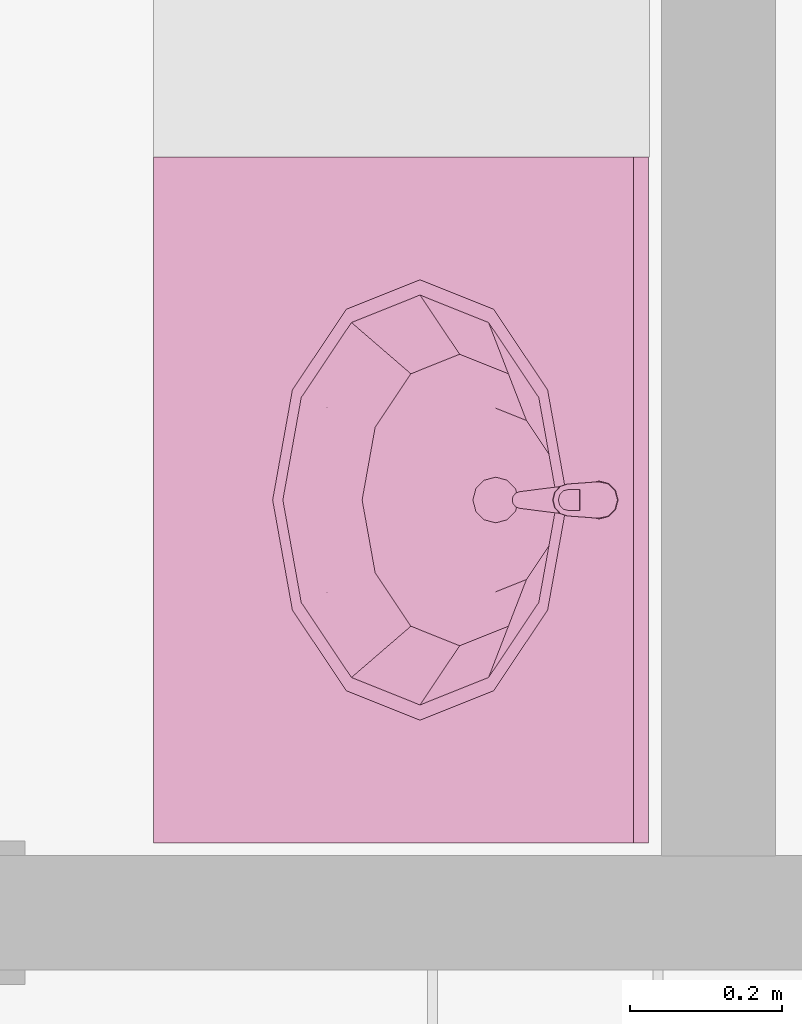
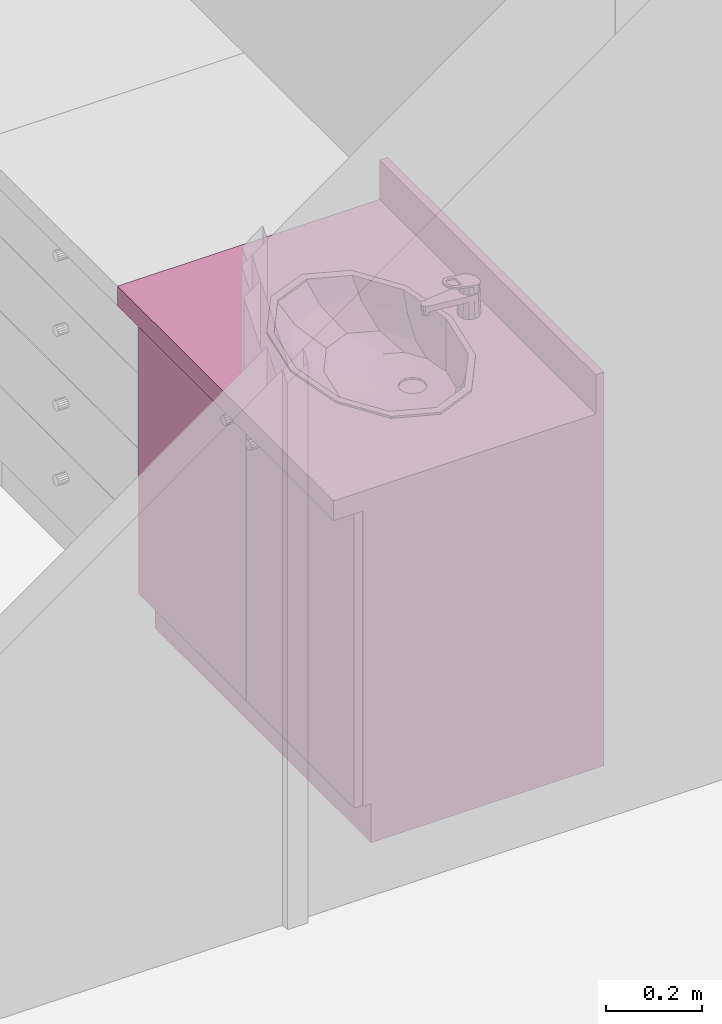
# One storey, part 97 of 127: 1 furnishing.
"""IFC2X3 building model written with IfcOpenShell, lengths in millimetres."""

from ifc_helpers import new_model, entity, si_unit, converted_unit, derived_unit, money_unit, direction, frame, origin_with_axes, place, context, subcontext, project, spatial, open_shell, faceted_brep, surface_model, source, transform, mapped, type_object, element, save


model = new_model("IFC2X3")

# Units and contexts
model_context = context("Model", 3, precision=1e-05, world=origin_with_axes(), true_north=direction((0.0, 1.0)))
body_context = subcontext(model_context, "Body", "Model", "MODEL_VIEW")
ifc_project = project(units=[si_unit("LENGTHUNIT", "METRE", prefix="MILLI"), si_unit("AREAUNIT", "SQUARE_METRE"), si_unit("VOLUMEUNIT", "CUBIC_METRE"), converted_unit("PLANEANGLEUNIT", "DEGREE", entity("IfcPlaneAngleMeasure", 0.0174532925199), si_unit("PLANEANGLEUNIT", "RADIAN"), dimensions=[0, 0, 0, 0, 0, 0, 0]), si_unit("SOLIDANGLEUNIT", "STERADIAN"), money_unit("EUR"), converted_unit("TIMEUNIT", "Year", entity("IfcTimeMeasure", 31556926.0), si_unit("TIMEUNIT", "SECOND"), dimensions=[0, 0, 1, 0, 0, 0, 0]), si_unit("MASSUNIT", "GRAM", prefix="KILO"), si_unit("THERMODYNAMICTEMPERATUREUNIT", "DEGREE_CELSIUS"), si_unit("LUMINOUSINTENSITYUNIT", "LUMEN"), si_unit("ENERGYUNIT", "JOULE", prefix="MEGA"), derived_unit("THERMALCONDUCTANCEUNIT", [(si_unit("POWERUNIT", "WATT"), 1), (si_unit("LENGTHUNIT", "METRE"), -1), (si_unit("THERMODYNAMICTEMPERATUREUNIT", "KELVIN"), -1)]), derived_unit("SPECIFICHEATCAPACITYUNIT", [(si_unit("ENERGYUNIT", "JOULE"), 1), (si_unit("MASSUNIT", "GRAM", prefix="KILO"), -1), (si_unit("THERMODYNAMICTEMPERATUREUNIT", "KELVIN"), -1)]), derived_unit("MASSDENSITYUNIT", [(si_unit("MASSUNIT", "GRAM", prefix="KILO"), 1), (si_unit("VOLUMEUNIT", "CUBIC_METRE"), -1)])], contexts=[model_context])

# Site, building, storey
site_placement = place(None, origin_with_axes())
site = spatial("IfcSite", under=ifc_project, at=site_placement, Name="Site", CompositionType="ELEMENT")
building_placement = place(site_placement, origin_with_axes())
building = spatial("IfcBuilding", under=site, at=building_placement, Name="Building", CompositionType="ELEMENT")
storey_placement = place(building_placement, origin_with_axes())
storey = spatial("IfcBuildingStorey", under=building, at=storey_placement, Name="1 KORRUS", CompositionType="ELEMENT", Elevation=0.0)

# Furnishing
furnishing_element_type = type_object("IfcFurnishingElementType", Name="Model Element 23")
shared_shape = source(origin_with_axes(), body_context, "Body", "SurfaceModel", [
    faceted_brep([(0.0, 90.0, 0.0), (900.0, 90.0, 0.0), (900.0, 90.0, 100.0), (0.0, 90.0, 100.0), (0.0, 650.0, 0.0), (900.0, 650.0, 0.0), (900.0, 650.0, 100.0), (0.0, 650.0, 100.0)], [[[0, 1, 2, 3]], [[0, 4, 5, 1]], [[1, 5, 6, 2]], [[3, 2, 6, 7]], [[4, 0, 3, 7]], [[5, 4, 7, 6]]]),
    faceted_brep([(0.0, 70.0, 100.0), (20.0, 70.0, 100.0), (20.0, 70.0, 120.0), (0.0, 70.0, 120.0), (0.0, 650.0, 100.0), (20.0, 650.0, 100.0), (880.0, 650.0, 100.0), (900.0, 650.0, 100.0), (900.0, 70.0, 100.0), (880.0, 70.0, 100.0), (880.0, 70.0, 120.0), (900.0, 70.0, 120.0), (900.0, 650.0, 120.0), (880.0, 650.0, 120.0), (20.0, 650.0, 120.0), (0.0, 650.0, 120.0)], [[[0, 1, 2, 3]], [[0, 4, 5, 6, 7, 8, 9, 1]], [[1, 9, 10, 2]], [[3, 2, 10, 11, 12, 13, 14, 15]], [[4, 0, 3, 15]], [[5, 4, 15, 14]], [[6, 5, 14, 13]], [[7, 6, 13, 12]], [[8, 7, 12, 11]], [[9, 8, 11, 10]]]),
    faceted_brep([(0.0, 70.0, 120.0), (20.0, 70.0, 120.0), (20.0, 70.0, 850.0), (0.0, 70.0, 850.0), (0.0, 650.0, 120.0), (900.0, 650.0, 120.0), (900.0, 70.0, 120.0), (880.0, 70.0, 120.0), (880.0, 630.0, 120.0), (20.0, 630.0, 120.0), (20.0, 630.0, 850.0), (880.0, 630.0, 850.0), (880.0, 70.0, 850.0), (900.0, 70.0, 850.0), (900.0, 650.0, 850.0), (0.0, 650.0, 850.0)], [[[0, 1, 2, 3]], [[0, 4, 5, 6, 7, 8, 9, 1]], [[1, 9, 10, 2]], [[3, 2, 10, 11, 12, 13, 14, 15]], [[4, 0, 3, 15]], [[5, 4, 15, 14]], [[6, 5, 14, 13]], [[7, 6, 13, 12]], [[8, 7, 12, 11]], [[9, 8, 11, 10]]]),
    faceted_brep([(880.0, 70.0, 323.333333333), (880.0, 630.0, 323.333333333), (880.0, 630.0, 343.333333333), (880.0, 70.0, 343.333333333), (20.0, 70.0, 323.333333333), (20.0, 630.0, 323.333333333), (20.0, 630.0, 343.333333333), (20.0, 70.0, 343.333333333)], [[[0, 1, 2, 3]], [[0, 4, 5, 1]], [[1, 5, 6, 2]], [[3, 2, 6, 7]], [[4, 0, 3, 7]], [[5, 4, 7, 6]]]),
    faceted_brep([(880.0, 70.0, 566.666666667), (880.0, 630.0, 566.666666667), (880.0, 630.0, 586.666666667), (880.0, 70.0, 586.666666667), (20.0, 70.0, 566.666666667), (20.0, 630.0, 566.666666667), (20.0, 630.0, 586.666666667), (20.0, 70.0, 586.666666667)], [[[0, 1, 2, 3]], [[0, 4, 5, 1]], [[1, 5, 6, 2]], [[3, 2, 6, 7]], [[4, 0, 3, 7]], [[5, 4, 7, 6]]]),
    faceted_brep([(0.0, 650.0, 850.0), (900.0, 650.0, 850.0), (900.0, 0.0, 850.0), (0.0, 0.0, 850.0), (585.0, 194.115427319, 850.0), (683.826859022, 260.0, 850.0), (720.0, 350.0, 850.0), (683.826859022, 440.0, 850.0), (585.0, 505.884572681, 850.0), (450.0, 530.0, 850.0), (315.0, 505.884572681, 850.0), (216.173140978, 440.0, 850.0), (180.0, 350.0, 850.0), (216.173140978, 260.0, 850.0), (315.0, 194.115427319, 850.0), (450.0, 170.0, 850.0), (0.0, 650.0, 900.0), (900.0, 650.0, 900.0), (900.0, 0.0, 900.0), (0.0, 0.0, 900.0), (585.0, 194.115427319, 900.0), (683.826859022, 260.0, 900.0), (720.0, 350.0, 900.0), (683.826859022, 440.0, 900.0), (585.0, 505.884572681, 900.0), (450.0, 530.0, 900.0), (315.0, 505.884572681, 900.0), (216.173140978, 440.0, 900.0), (180.0, 350.0, 900.0), (216.173140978, 260.0, 900.0), (315.0, 194.115427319, 900.0), (450.0, 170.0, 900.0)], [[[0, 1, 2, 3], [4, 5, 6, 7, 8, 9, 10, 11, 12, 13, 14, 15]], [[0, 16, 17, 1]], [[1, 17, 18, 2]], [[2, 18, 19, 3]], [[3, 19, 16, 0]], [[20, 21, 5, 4]], [[21, 22, 6, 5]], [[22, 23, 7, 6]], [[23, 24, 8, 7]], [[24, 25, 9, 8]], [[25, 26, 10, 9]], [[26, 27, 11, 10]], [[27, 28, 12, 11]], [[28, 29, 13, 12]], [[29, 30, 14, 13]], [[30, 31, 15, 14]], [[31, 20, 4, 15]], [[18, 17, 16, 19], [24, 23, 22, 21, 20, 31, 30, 29, 28, 27, 26, 25]]]),
    faceted_brep([(0.0, 630.0, 900.0), (900.0, 630.0, 900.0), (900.0, 630.0, 1000.0), (0.0, 630.0, 1000.0), (0.0, 650.0, 900.0), (900.0, 650.0, 900.0), (900.0, 650.0, 1000.0), (0.0, 650.0, 1000.0)], [[[0, 1, 2, 3]], [[0, 4, 5, 1]], [[1, 5, 6, 2]], [[3, 2, 6, 7]], [[4, 0, 3, 7]], [[5, 4, 7, 6]]]),
    faceted_brep([(739.0, 350.0, 905.0), (739.0, 350.0, 900.0), (700.281341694, 446.691449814, 900.0), (700.281341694, 446.691449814, 905.0), (700.281341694, 253.308550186, 905.0), (700.281341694, 253.308550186, 900.0), (594.5, 182.525496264, 900.0), (450.0, 156.617100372, 900.0), (305.5, 182.525496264, 900.0), (199.718658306, 253.308550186, 900.0), (161.0, 350.0, 900.0), (199.718658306, 446.691449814, 900.0), (305.5, 517.474503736, 900.0), (450.0, 543.382899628, 900.0), (594.5, 517.474503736, 900.0), (719.0, 350.0, 900.0), (682.960833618, 440.0, 900.0), (584.5, 505.884572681, 900.0), (450.0, 530.0, 900.0), (315.5, 505.884572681, 900.0), (217.039166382, 440.0, 900.0), (181.0, 350.0, 900.0), (217.039166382, 260.0, 900.0), (315.5, 194.115427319, 900.0), (450.0, 170.0, 900.0), (584.5, 194.115427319, 900.0), (682.960833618, 260.0, 900.0), (594.5, 517.474503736, 905.0), (450.0, 543.382899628, 905.0), (305.5, 517.474503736, 905.0), (199.718658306, 446.691449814, 905.0), (161.0, 350.0, 905.0), (199.718658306, 253.308550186, 905.0), (305.5, 182.525496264, 905.0), (450.0, 156.617100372, 905.0), (594.5, 182.525496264, 905.0), (719.0, 350.0, 905.0), (682.960833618, 260.0, 905.0), (584.5, 194.115427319, 905.0), (450.0, 170.0, 905.0), (315.5, 194.115427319, 905.0), (217.039166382, 260.0, 905.0), (181.0, 350.0, 905.0), (217.039166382, 440.0, 905.0), (315.5, 505.884572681, 905.0), (450.0, 530.0, 905.0), (584.5, 505.884572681, 905.0), (682.960833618, 440.0, 905.0)], [[[0, 1, 2, 3]], [[4, 5, 1, 0]], [[1, 5, 6, 7, 8, 9, 10, 11, 12, 13, 14, 2], [15, 16, 17, 18, 19, 20, 21, 22, 23, 24, 25, 26]], [[3, 2, 14, 27]], [[0, 3, 27, 28, 29, 30, 31, 32, 33, 34, 35, 4], [36, 37, 38, 39, 40, 41, 42, 43, 44, 45, 46, 47]], [[35, 6, 5, 4]], [[34, 7, 6, 35]], [[33, 8, 7, 34]], [[32, 9, 8, 33]], [[31, 10, 9, 32]], [[30, 11, 10, 31]], [[29, 12, 11, 30]], [[28, 13, 12, 29]], [[27, 14, 13, 28]], [[47, 16, 15, 36]], [[46, 17, 16, 47]], [[45, 18, 17, 46]], [[44, 19, 18, 45]], [[43, 20, 19, 44]], [[42, 21, 20, 43]], [[41, 22, 21, 42]], [[40, 23, 22, 41]], [[39, 24, 23, 40]], [[38, 25, 24, 39]], [[37, 26, 25, 38]], [[36, 15, 26, 37]]]),
    surface_model("IfcShellBasedSurfaceModel", [(450.0, 530.0, 900.0), (450.0, 530.0, 848.0), (571.05, 508.296115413, 848.0), (584.5, 505.884572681, 900.0), (315.5, 505.884572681, 900.0), (328.95, 508.296115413, 848.0), (659.664750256, 449.0, 848.0), (682.960833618, 440.0, 900.0), (217.039166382, 440.0, 900.0), (240.335249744, 449.0, 848.0), (692.1, 368.0, 848.0), (719.0, 350.0, 900.0), (181.0, 350.0, 900.0), (207.9, 368.0, 848.0), (659.664750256, 287.0, 848.0), (682.960833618, 260.0, 900.0), (217.039166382, 260.0, 900.0), (240.335249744, 287.0, 848.0), (571.05, 227.703884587, 848.0), (584.5, 194.115427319, 900.0), (315.5, 194.115427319, 900.0), (328.95, 227.703884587, 848.0), (450.0, 206.0, 848.0), (450.0, 170.0, 900.0)], [open_shell([[[0, 1, 2, 3]], [[4, 5, 1, 0]], [[3, 2, 6, 7]], [[8, 9, 5, 4]], [[7, 6, 10, 11]], [[12, 13, 9, 8]], [[11, 10, 14, 15]], [[16, 17, 13, 12]], [[15, 14, 18, 19]], [[20, 21, 17, 16]], [[19, 18, 22, 23]], [[23, 22, 21, 20]]])]),
    surface_model("IfcShellBasedSurfaceModel", [(450.0, 530.0, 848.0), (450.0, 530.0, 796.0), (545.6295, 512.853931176, 796.0), (571.05, 508.296115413, 848.0), (328.95, 508.296115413, 848.0), (354.3705, 512.853931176, 796.0), (615.635152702, 466.01, 796.0), (659.664750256, 449.0, 848.0), (240.335249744, 449.0, 848.0), (284.364847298, 466.01, 796.0), (641.259, 402.02, 796.0), (692.1, 368.0, 848.0), (207.9, 368.0, 848.0), (258.741, 402.02, 796.0), (615.635152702, 338.03, 796.0), (659.664750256, 287.0, 848.0), (240.335249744, 287.0, 848.0), (284.364847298, 338.03, 796.0), (545.6295, 291.186068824, 796.0), (571.05, 227.703884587, 848.0), (328.95, 227.703884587, 848.0), (354.3705, 291.186068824, 796.0), (450.0, 274.04, 796.0), (450.0, 206.0, 848.0)], [open_shell([[[0, 1, 2, 3]], [[4, 5, 1, 0]], [[3, 2, 6, 7]], [[8, 9, 5, 4]], [[7, 6, 10, 11]], [[12, 13, 9, 8]], [[11, 10, 14, 15]], [[16, 17, 13, 12]], [[15, 14, 18, 19]], [[20, 21, 17, 16]], [[19, 18, 22, 23]], [[23, 22, 21, 20]]])]),
    surface_model("IfcShellBasedSurfaceModel", [(450.0, 530.0, 796.0), (450.0, 530.0, 770.0), (510.246585, 519.197976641, 770.0), (545.6295, 512.853931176, 796.0), (354.3705, 512.853931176, 796.0), (389.753415, 519.197976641, 770.0), (554.350146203, 489.6863, 770.0), (615.635152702, 466.01, 796.0), (284.364847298, 466.01, 796.0), (345.649853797, 489.6863, 770.0), (570.49317, 449.3726, 770.0), (641.259, 402.02, 796.0), (258.741, 402.02, 796.0), (329.50683, 449.3726, 770.0), (554.350146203, 409.0589, 770.0), (615.635152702, 338.03, 796.0), (284.364847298, 338.03, 796.0), (345.649853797, 409.0589, 770.0), (510.246585, 379.547223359, 770.0), (545.6295, 291.186068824, 796.0), (354.3705, 291.186068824, 796.0), (389.753415, 379.547223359, 770.0), (450.0, 368.7452, 770.0), (450.0, 274.04, 796.0)], [open_shell([[[0, 1, 2, 3]], [[4, 5, 1, 0]], [[3, 2, 6, 7]], [[8, 9, 5, 4]], [[7, 6, 10, 11]], [[12, 13, 9, 8]], [[11, 10, 14, 15]], [[16, 17, 13, 12]], [[15, 14, 18, 19]], [[20, 21, 17, 16]], [[19, 18, 22, 23]], [[23, 22, 21, 20]]])]),
    surface_model("IfcShellBasedSurfaceModel", [(450.0, 530.0, 770.0), (465.0, 475.353362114, 763.0), (510.246585, 519.197976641, 770.0), (450.0, 479.3726, 763.0), (475.980762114, 464.3726, 763.0), (389.753415, 519.197976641, 770.0), (554.350146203, 489.6863, 770.0), (435.0, 475.353362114, 763.0), (480.0, 449.3726, 763.0), (345.649853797, 489.6863, 770.0), (570.49317, 449.3726, 770.0), (424.019237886, 464.3726, 763.0), (475.980762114, 434.3726, 763.0), (329.50683, 449.3726, 770.0), (554.350146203, 409.0589, 770.0), (420.0, 449.3726, 763.0), (465.0, 423.391837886, 763.0), (345.649853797, 409.0589, 770.0), (510.246585, 379.547223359, 770.0), (424.019237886, 434.3726, 763.0), (450.0, 419.3726, 763.0), (389.753415, 379.547223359, 770.0), (450.0, 368.7452, 770.0), (435.0, 423.391837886, 763.0)], [open_shell([[[0, 1, 2]], [[0, 3, 1]], [[2, 1, 4]], [[5, 3, 0]], [[2, 4, 6]], [[5, 7, 3]], [[6, 4, 8]], [[9, 7, 5]], [[6, 8, 10]], [[9, 11, 7]], [[10, 8, 12]], [[13, 11, 9]], [[10, 12, 14]], [[13, 15, 11]], [[14, 12, 16]], [[17, 15, 13]], [[14, 16, 18]], [[17, 19, 15]], [[18, 16, 20]], [[21, 19, 17]], [[18, 20, 22]], [[21, 23, 19]], [[22, 20, 23]], [[22, 23, 21]]])]),
    surface_model("IfcShellBasedSurfaceModel", [(480.0, 449.3726, 763.0), (480.0, 449.3726, 758.0), (475.980762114, 464.3726, 758.0), (475.980762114, 464.3726, 763.0), (475.980762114, 434.3726, 763.0), (475.980762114, 434.3726, 758.0), (465.0, 423.391837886, 758.0), (450.0, 419.3726, 758.0), (435.0, 423.391837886, 758.0), (424.019237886, 434.3726, 758.0), (420.0, 449.3726, 758.0), (424.019237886, 464.3726, 758.0), (435.0, 475.353362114, 758.0), (450.0, 479.3726, 758.0), (465.0, 475.353362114, 758.0), (465.0, 475.353362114, 763.0), (465.0, 423.391837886, 763.0), (450.0, 419.3726, 763.0), (435.0, 423.391837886, 763.0), (424.019237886, 434.3726, 763.0), (420.0, 449.3726, 763.0), (424.019237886, 464.3726, 763.0), (435.0, 475.353362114, 763.0), (450.0, 479.3726, 763.0)], [open_shell([[[0, 1, 2, 3]], [[4, 5, 1, 0]], [[1, 5, 6, 7, 8, 9, 10, 11, 12, 13, 14, 2]], [[3, 2, 14, 15]], [[16, 6, 5, 4]], [[17, 7, 6, 16]], [[18, 8, 7, 17]], [[19, 9, 8, 18]], [[20, 10, 9, 19]], [[21, 11, 10, 20]], [[22, 12, 11, 21]], [[23, 13, 12, 22]], [[15, 14, 13, 23]]])]),
    faceted_brep([(462.5, 606.650635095, 900.0), (450.0, 610.0, 900.0), (450.0, 606.201923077, 975.961538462), (460.587322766, 603.337780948, 976.507089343), (471.650635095, 597.5, 900.0), (475.0, 585.0, 900.0), (471.650635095, 572.5, 900.0), (462.5, 563.349364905, 900.0), (450.0, 560.0, 900.0), (437.5, 563.349364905, 900.0), (428.349364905, 572.5, 900.0), (425.0, 585.0, 900.0), (428.349364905, 597.5, 900.0), (437.5, 606.650635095, 900.0), (439.412677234, 603.337780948, 976.507089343), (431.726449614, 595.550239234, 977.990430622), (429.0, 585.0, 980.0), (431.899658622, 574.549763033, 981.990521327), (439.585894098, 566.962239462, 983.435763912), (450.0, 564.198113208, 983.962264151), (460.414105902, 566.962239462, 983.435763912), (468.100341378, 574.549763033, 981.990521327), (471.0, 585.0, 980.0), (468.273550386, 595.550239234, 977.990430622)], [[[0, 1, 2, 3]], [[0, 4, 5, 6, 7, 8, 9, 10, 11, 12, 13, 1]], [[1, 13, 14, 2]], [[3, 2, 14, 15, 16, 17, 18, 19, 20, 21, 22, 23]], [[4, 0, 3, 23]], [[5, 4, 23, 22]], [[6, 5, 22, 21]], [[7, 6, 21, 20]], [[8, 7, 20, 19]], [[9, 8, 19, 18]], [[10, 9, 18, 17]], [[11, 10, 17, 16]], [[12, 11, 16, 15]], [[13, 12, 15, 14]]]),
    faceted_brep([(459.0, 482.0, 935.0), (457.794228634, 486.5, 935.0), (457.794228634, 486.5, 945.0), (459.0, 482.0, 945.0), (457.794228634, 477.5, 935.0), (454.5, 474.205771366, 935.0), (450.0, 473.0, 935.0), (445.5, 474.205771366, 935.0), (442.205771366, 477.5, 935.0), (441.0, 482.0, 935.0), (442.205771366, 486.5, 935.0), (445.5, 489.794228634, 935.0), (450.0, 491.0, 935.0), (454.5, 489.794228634, 935.0), (454.5, 489.794228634, 945.0), (450.0, 491.0, 945.0), (445.5, 489.794228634, 945.0), (442.205771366, 486.5, 945.0), (441.0, 482.0, 945.0), (442.205771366, 477.5, 945.0), (445.5, 474.205771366, 945.0), (450.0, 473.0, 945.0), (454.5, 474.205771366, 945.0), (457.794228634, 477.5, 945.0)], [[[0, 1, 2, 3]], [[0, 4, 5, 6, 7, 8, 9, 10, 11, 12, 13, 1]], [[1, 13, 14, 2]], [[3, 2, 14, 15, 16, 17, 18, 19, 20, 21, 22, 23]], [[4, 0, 3, 23]], [[5, 4, 23, 22]], [[6, 5, 22, 21]], [[7, 6, 21, 20]], [[8, 7, 20, 19]], [[9, 8, 19, 18]], [[10, 9, 18, 17]], [[11, 10, 17, 16]], [[12, 11, 16, 15]], [[13, 12, 15, 14]]]),
    faceted_brep([(437.128282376, 605.256303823, 960.0), (428.272194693, 595.19320537, 960.0), (426.1946, 581.9501, 960.0), (439.088009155, 480.611628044, 960.0), (440.971124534, 475.716805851, 960.0), (444.906675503, 472.250273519, 960.0), (450.000036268, 471.00003996, 960.0), (455.093388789, 472.250307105, 960.0), (459.028916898, 475.716865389, 960.0), (460.912, 480.6117, 960.0), (473.805399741, 581.950097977, 960.0), (471.727806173, 595.193203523, 960.0), (462.871719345, 605.256302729, 960.0), (450.00000102, 608.999978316, 960.0), (461.0, 604.052558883, 960.0), (469.052558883, 596.0, 960.0), (472.0, 585.0, 960.0), (469.052558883, 574.0, 960.0), (461.0, 565.947441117, 960.0), (450.0, 563.0, 960.0), (439.0, 565.947441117, 960.0), (430.947441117, 574.0, 960.0), (428.0, 585.0, 960.0), (430.947441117, 596.0, 960.0), (439.0, 604.052558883, 960.0), (450.0, 607.0, 960.0), (428.272194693, 595.19320537, 945.0), (437.128282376, 605.256303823, 945.0), (426.1946, 581.9501, 945.0), (439.088009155, 480.611628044, 945.0), (440.971124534, 475.716805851, 945.0), (444.906675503, 472.250273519, 945.0), (450.000036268, 471.00003996, 945.0), (455.093388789, 472.250307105, 945.0), (459.028916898, 475.716865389, 945.0), (460.912, 480.6117, 945.0), (473.805399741, 581.950097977, 945.0), (471.727806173, 595.193203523, 945.0), (462.871719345, 605.256302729, 945.0), (450.00000102, 608.999978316, 945.0), (461.375, 604.702077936, 945.0), (469.702077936, 596.375, 945.0), (472.75, 585.0, 945.0), (469.702077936, 573.625, 945.0), (461.375, 565.297922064, 945.0), (450.0, 562.25, 945.0), (438.625, 565.297922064, 945.0), (430.297922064, 573.625, 945.0), (427.25, 585.0, 945.0), (430.297922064, 596.375, 945.0), (438.625, 604.702077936, 945.0), (450.0, 607.75, 945.0)], [[[0, 1, 2, 3, 4, 5, 6, 7, 8, 9, 10, 11, 12, 13], [14, 15, 16, 17, 18, 19, 20, 21, 22, 23, 24, 25]], [[26, 1, 0, 27]], [[28, 2, 1, 26]], [[29, 3, 2, 28]], [[30, 4, 3, 29]], [[31, 5, 4, 30]], [[32, 6, 5, 31]], [[33, 7, 6, 32]], [[34, 8, 7, 33]], [[35, 9, 8, 34]], [[36, 10, 9, 35]], [[37, 11, 10, 36]], [[38, 12, 11, 37]], [[39, 13, 12, 38]], [[27, 0, 13, 39]], [[40, 41, 15, 14]], [[41, 42, 16, 15]], [[42, 43, 17, 16]], [[43, 44, 18, 17]], [[44, 45, 19, 18]], [[20, 19, 45, 46]], [[21, 20, 46, 47]], [[22, 21, 47, 48]], [[23, 22, 48, 49]], [[24, 23, 49, 50]], [[50, 51, 25, 24]], [[51, 40, 14, 25]], [[32, 31, 30, 29, 28, 26, 27, 39, 38, 37, 36, 35, 34, 33], [44, 43, 42, 41, 40, 51, 50, 49, 48, 47, 46, 45]]]),
    faceted_brep([(473.893, 583.30743065, 980.322394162), (471.296421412, 595.774718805, 977.947672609), (471.296421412, 596.523167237, 981.877026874), (473.893, 584.055879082, 984.251748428), (470.945936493, 543.163297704, 987.968895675), (467.663139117, 533.485633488, 989.812260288), (460.061435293, 526.536253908, 991.135951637), (449.999557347, 524.01438808, 991.616307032), (439.937787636, 526.536670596, 991.135872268), (432.336382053, 533.486364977, 989.812120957), (429.054, 543.164165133, 987.968730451), (426.106979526, 583.307709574, 980.322341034), (428.703708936, 595.774967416, 977.947625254), (437.52831848, 605.091197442, 976.173105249), (450.000142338, 608.531964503, 975.517721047), (462.47192457, 605.091051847, 976.173132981), (464.0, 559.459197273, 984.864914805), (436.0, 559.459197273, 984.864914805), (436.0, 544.643567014, 987.686939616), (437.875644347, 537.767197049, 988.996724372), (443.0, 532.733344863, 989.955553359), (450.0, 530.890827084, 990.306509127), (457.0, 532.733344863, 989.955553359), (462.124355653, 537.767197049, 988.996724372), (464.0, 544.643567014, 987.686939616), (462.47192457, 605.839500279, 980.102487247), (450.000142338, 609.280412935, 979.447075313), (437.52831848, 605.839645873, 980.102459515), (428.703708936, 596.523415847, 981.87697952), (426.106979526, 584.056158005, 984.251695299), (429.054, 543.912613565, 991.898084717), (432.336382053, 534.234813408, 993.741475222), (439.937787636, 527.285119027, 995.065226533), (449.999557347, 524.762836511, 995.545661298), (460.061435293, 527.28470234, 995.065305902), (467.663139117, 534.23408192, 993.741614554), (470.945936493, 543.911746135, 991.898249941), (464.0, 560.207645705, 988.794269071), (464.0, 545.392015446, 991.616293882), (462.124355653, 538.515645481, 992.926078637), (457.0, 533.481793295, 993.884907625), (450.0, 531.639275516, 994.235863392), (443.0, 533.481793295, 993.884907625), (437.875644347, 538.515645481, 992.926078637), (436.0, 545.392015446, 991.616293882), (436.0, 560.207645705, 988.794269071)], [[[0, 1, 2, 3]], [[0, 4, 5, 6, 7, 8, 9, 10, 11, 12, 13, 14, 15, 1], [16, 17, 18, 19, 20, 21, 22, 23, 24]], [[1, 15, 25, 2]], [[3, 2, 25, 26, 27, 28, 29, 30, 31, 32, 33, 34, 35, 36], [37, 38, 39, 40, 41, 42, 43, 44, 45]], [[4, 0, 3, 36]], [[5, 4, 36, 35]], [[6, 5, 35, 34]], [[7, 6, 34, 33]], [[8, 7, 33, 32]], [[9, 8, 32, 31]], [[10, 9, 31, 30]], [[11, 10, 30, 29]], [[12, 11, 29, 28]], [[13, 12, 28, 27]], [[14, 13, 27, 26]], [[15, 14, 26, 25]], [[17, 16, 37, 45]], [[18, 17, 45, 44]], [[19, 18, 44, 43]], [[20, 19, 43, 42]], [[21, 20, 42, 41]], [[22, 21, 41, 40]], [[23, 22, 40, 39]], [[24, 23, 39, 38]], [[16, 24, 38, 37]]]),
    faceted_brep([(1.5, 70.0, 101.5), (448.5, 70.0, 101.5), (448.5, 50.0, 101.5), (1.5, 50.0, 101.5), (1.5, 70.0, 848.5), (448.5, 70.0, 848.5), (448.5, 50.0, 848.5), (1.5, 50.0, 848.5)], [[[0, 1, 2, 3]], [[0, 4, 5, 1]], [[1, 5, 6, 2]], [[3, 2, 6, 7]], [[4, 0, 3, 7]], [[5, 4, 7, 6]]]),
    faceted_brep([(408.892304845, 50.0, 785.5), (404.5, 50.0, 781.107695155), (398.5, 50.0, 779.5), (392.5, 50.0, 781.107695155), (388.107695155, 50.0, 785.5), (386.5, 50.0, 791.5), (388.107695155, 50.0, 797.5), (392.5, 50.0, 801.892304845), (398.5, 50.0, 803.5), (404.5, 50.0, 801.892304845), (408.892304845, 50.0, 797.5), (410.5, 50.0, 791.5), (408.892304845, 25.0, 785.5), (404.5, 25.0, 781.107695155), (398.5, 25.0, 779.5), (392.5, 25.0, 781.107695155), (388.107695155, 25.0, 785.5), (386.5, 25.0, 791.5), (388.107695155, 25.0, 797.5), (392.5, 25.0, 801.892304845), (398.5, 25.0, 803.5), (404.5, 25.0, 801.892304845), (408.892304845, 25.0, 797.5), (410.5, 25.0, 791.5)], [[[0, 1, 2, 3, 4, 5, 6, 7, 8, 9, 10, 11]], [[1, 0, 12, 13]], [[2, 1, 13, 14]], [[3, 2, 14, 15]], [[4, 3, 15, 16]], [[5, 4, 16, 17]], [[6, 5, 17, 18]], [[7, 6, 18, 19]], [[8, 7, 19, 20]], [[9, 8, 20, 21]], [[10, 9, 21, 22]], [[11, 10, 22, 23]], [[0, 11, 23, 12]], [[12, 23, 22, 21, 20, 19, 18, 17, 16, 15, 14, 13]]]),
    faceted_brep([(898.5, 70.0, 101.5), (898.5, 50.0, 101.5), (451.5, 50.0, 101.5), (451.5, 70.0, 101.5), (898.5, 70.0, 848.5), (898.5, 50.0, 848.5), (451.5, 50.0, 848.5), (451.5, 70.0, 848.5)], [[[0, 1, 2, 3]], [[4, 5, 1, 0]], [[1, 5, 6, 2]], [[3, 2, 6, 7]], [[0, 3, 7, 4]], [[7, 6, 5, 4]]]),
    faceted_brep([(491.107695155, 50.0, 785.5), (489.5, 50.0, 791.5), (491.107695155, 50.0, 797.5), (495.5, 50.0, 801.892304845), (501.5, 50.0, 803.5), (507.5, 50.0, 801.892304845), (511.892304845, 50.0, 797.5), (513.5, 50.0, 791.5), (511.892304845, 50.0, 785.5), (507.5, 50.0, 781.107695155), (501.5, 50.0, 779.5), (495.5, 50.0, 781.107695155), (491.107695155, 25.0, 785.5), (489.5, 25.0, 791.5), (491.107695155, 25.0, 797.5), (495.5, 25.0, 801.892304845), (501.5, 25.0, 803.5), (507.5, 25.0, 801.892304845), (511.892304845, 25.0, 797.5), (513.5, 25.0, 791.5), (511.892304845, 25.0, 785.5), (507.5, 25.0, 781.107695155), (501.5, 25.0, 779.5), (495.5, 25.0, 781.107695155)], [[[0, 1, 2, 3, 4, 5, 6, 7, 8, 9, 10, 11]], [[0, 12, 13, 1]], [[1, 13, 14, 2]], [[2, 14, 15, 3]], [[3, 15, 16, 4]], [[4, 16, 17, 5]], [[5, 17, 18, 6]], [[6, 18, 19, 7]], [[7, 19, 20, 8]], [[8, 20, 21, 9]], [[9, 21, 22, 10]], [[10, 22, 23, 11]], [[11, 23, 12, 0]], [[12, 23, 22, 21, 20, 19, 18, 17, 16, 15, 14, 13]]]),
])
furnishing_placement = place(storey_placement, frame((18343.894127, 68366.369056, 0.0), z_axis=(0.0, 0.0, 1.0), x_axis=(0.0, -1.0, 0.0)))
element("IfcFurnishingElement", 1, at=furnishing_placement, inside=storey, type_object=furnishing_element_type, Name="FU - 005", context=body_context, shape_type="MappedRepresentation", body=[
    mapped(shared_shape, transform((0.0, 0.0, 0.0))),
])

save(model, "model.ifc")
